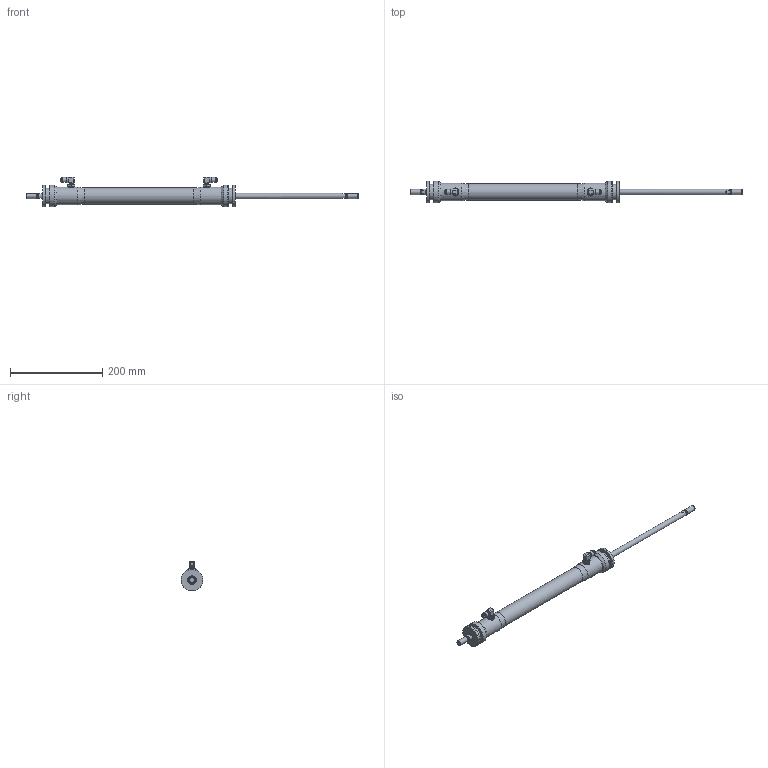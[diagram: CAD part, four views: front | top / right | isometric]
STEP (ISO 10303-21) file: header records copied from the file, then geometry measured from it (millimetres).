
FILE_DESCRIPTION(/* description */ (''),/* implementation_level */ '2;1');
FILE_NAME(/* name */ 'C:\STP.CR\ Rev.stp',/* time_stamp */ '2021-11-01T16:24:04+00:00',/* author */ ('Amelia'),/* organization */ (''),/* preprocessor_version */ 'ST-DEVELOPER v18.1',/* originating_system */ 'Autodesk Inventor 2022',/* authorisation */ '');
FILE_SCHEMA (('AUTOMOTIVE_DESIGN { 1 0 10303 214 3 1 1 }'));
Length unit declared in the file: millimetre
Products named in the file (1): TDA-71_Simplify_1
Bounding box: 720 x 47.2 x 64.75 mm (x, y, z)
Volume: 492496.1 mm3; surface area: 74509.3 mm2
Topology: 1 solids, 1 shells, 185 faces, 377 edges, 230 vertices
Faces by surface type: plane 84, cylinder 47, cone 38, torus 16
Full cylindrical faces by diameter (mm): 7.728 x2, 8.662 x2, 8.728 x2, 9.728 x4, 10.01 x4, 11.01 x2, 11.062 x2, 11.11 x2, 12 x2, 14 x2, 15 x2, 15.1 x4, 17 x2, 18.6 x2, 34 x2, 35.2 x1, 38.2 x2, 47.2 x4
Entity records: 5135 total; most frequent: CARTESIAN_POINT 949, DIRECTION 879, ORIENTED_EDGE 754, EDGE_CURVE 377, AXIS2_PLACEMENT_3D 358, VERTEX_POINT 230, EDGE_LOOP 221, STYLED_ITEM 186
